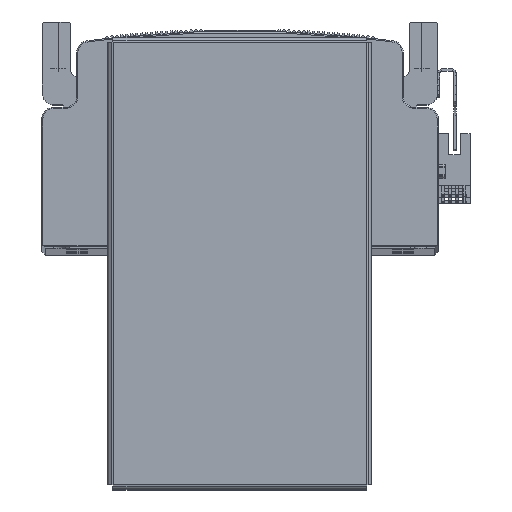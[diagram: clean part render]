
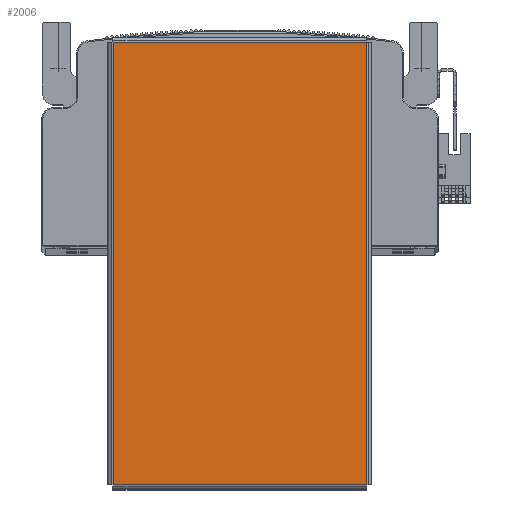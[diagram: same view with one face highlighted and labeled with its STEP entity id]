
A CAD part, top view. The second image highlights one B-rep face of the part: STEP entity #2006.
In plain terms, the highlighted planar face has unit normal (0, 0, 1) as drawn and (0, -1, 0) by its records, which use the part's own axes.
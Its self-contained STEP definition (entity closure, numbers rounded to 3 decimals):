
#2006 = ADVANCED_FACE ( 'NONE', ( #38649 ), #9213, .F. ) ;
#9213 = PLANE ( 'NONE',  #57637 ) ;
#9217 = CARTESIAN_POINT ( 'NONE',  ( 0., -1.5, 0. ) ) ;
#9219 = DIRECTION ( 'NONE',  ( 0., 0., 1. ) ) ;
#9230 = DIRECTION ( 'NONE',  ( 0., 1., 0. ) ) ;
#9661 = VECTOR ( 'NONE', #11203, 1000. ) ;
#9688 = LINE ( 'NONE', #11211, #9661 ) ;
#9929 = LINE ( 'NONE', #11281, #9997 ) ;
#9997 = VECTOR ( 'NONE', #11199, 1000. ) ;
#11199 = DIRECTION ( 'NONE',  ( 0., 0., -1. ) ) ;
#11203 = DIRECTION ( 'NONE',  ( 1., 0., 0. ) ) ;
#11211 = CARTESIAN_POINT ( 'NONE',  ( -94.793, -1.5, -54.363 ) ) ;
#11281 = CARTESIAN_POINT ( 'NONE',  ( -94.763, -1.5, 54.393 ) ) ;
#12250 = EDGE_CURVE ( 'NONE', #34875, #34929, #9688, .T. ) ;
#12268 = EDGE_CURVE ( 'NONE', #34983, #34875, #9929, .T. ) ;
#12310 = EDGE_CURVE ( 'NONE', #34969, #34983, #14859, .T. ) ;
#12328 = EDGE_CURVE ( 'NONE', #34929, #34969, #14850, .T. ) ;
#13259 = DIRECTION ( 'NONE',  ( -1., 0., 0. ) ) ;
#13264 = CARTESIAN_POINT ( 'NONE',  ( 94.793, -1.5, 54.363 ) ) ;
#13300 = DIRECTION ( 'NONE',  ( 0., 0., 1. ) ) ;
#13324 = CARTESIAN_POINT ( 'NONE',  ( 94.763, -1.5, -54.393 ) ) ;
#14843 = VECTOR ( 'NONE', #13300, 1000. ) ;
#14850 = LINE ( 'NONE', #13324, #14843 ) ;
#14859 = LINE ( 'NONE', #13264, #14862 ) ;
#14862 = VECTOR ( 'NONE', #13259, 1000. ) ;
#34875 = VERTEX_POINT ( 'NONE', #62850 ) ;
#34929 = VERTEX_POINT ( 'NONE', #62853 ) ;
#34969 = VERTEX_POINT ( 'NONE', #62829 ) ;
#34983 = VERTEX_POINT ( 'NONE', #62855 ) ;
#38649 = FACE_OUTER_BOUND ( 'NONE', #50901, .T. ) ;
#50901 = EDGE_LOOP ( 'NONE', ( #59924, #59935, #59938, #60007 ) ) ;
#57637 = AXIS2_PLACEMENT_3D ( 'NONE', #9217, #9230, #9219 ) ;
#59924 = ORIENTED_EDGE ( 'NONE', *, *, #12310, .T. ) ;
#59935 = ORIENTED_EDGE ( 'NONE', *, *, #12268, .T. ) ;
#59938 = ORIENTED_EDGE ( 'NONE', *, *, #12250, .T. ) ;
#60007 = ORIENTED_EDGE ( 'NONE', *, *, #12328, .T. ) ;
#62829 = CARTESIAN_POINT ( 'NONE',  ( 94.763, -1.5, 54.363 ) ) ;
#62850 = CARTESIAN_POINT ( 'NONE',  ( -94.763, -1.5, -54.363 ) ) ;
#62853 = CARTESIAN_POINT ( 'NONE',  ( 94.763, -1.5, -54.363 ) ) ;
#62855 = CARTESIAN_POINT ( 'NONE',  ( -94.763, -1.5, 54.363 ) ) ;
